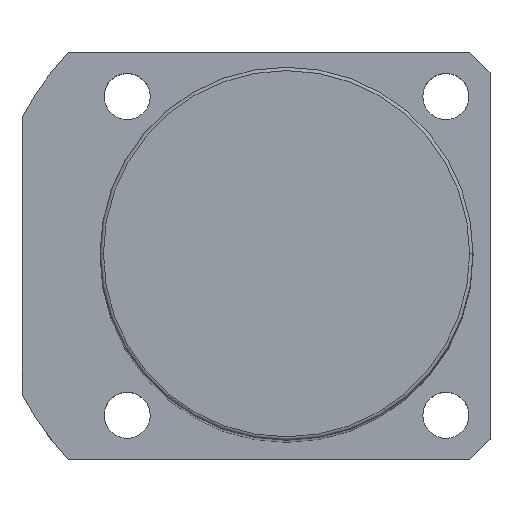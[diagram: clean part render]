
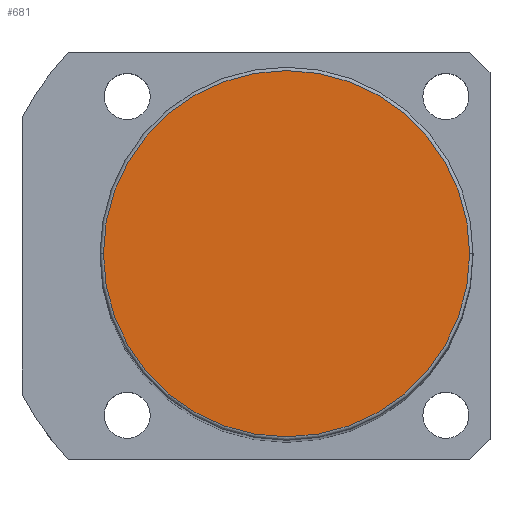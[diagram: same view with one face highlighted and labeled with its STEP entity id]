
A CAD part, top view. The second image highlights one B-rep face of the part: STEP entity #681.
In plain terms, the highlighted planar face has unit normal (0, 0, 1).
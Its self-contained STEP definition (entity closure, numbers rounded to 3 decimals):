
#454 = EDGE_LOOP ( 'NONE', ( #3073, #2141 ) ) ;
#595 = AXIS2_PLACEMENT_3D ( 'NONE', #1752, #4878, #942 ) ;
#681 = ADVANCED_FACE ( 'NONE', ( #1657 ), #4937, .T. ) ;
#942 = DIRECTION ( 'NONE',  ( 1., 0., 0. ) ) ;
#1093 = CIRCLE ( 'NONE', #3872, 27. ) ;
#1096 = EDGE_CURVE ( 'NONE', #2994, #4324, #3432, .T. ) ;
#1229 = CARTESIAN_POINT ( 'NONE',  ( 0., 0., 191. ) ) ;
#1520 = DIRECTION ( 'NONE',  ( 0., 0., 1. ) ) ;
#1646 = DIRECTION ( 'NONE',  ( 1., 0., 0. ) ) ;
#1657 = FACE_OUTER_BOUND ( 'NONE', #454, .T. ) ;
#1752 = CARTESIAN_POINT ( 'NONE',  ( 0., 0., 191. ) ) ;
#2141 = ORIENTED_EDGE ( 'NONE', *, *, #1096, .T. ) ;
#2403 = AXIS2_PLACEMENT_3D ( 'NONE', #2552, #1520, #2964 ) ;
#2552 = CARTESIAN_POINT ( 'NONE',  ( 0., 0., 191. ) ) ;
#2964 = DIRECTION ( 'NONE',  ( 1., 0., 0. ) ) ;
#2994 = VERTEX_POINT ( 'NONE', #3796 ) ;
#3073 = ORIENTED_EDGE ( 'NONE', *, *, #3257, .T. ) ;
#3257 = EDGE_CURVE ( 'NONE', #4324, #2994, #1093, .T. ) ;
#3432 = CIRCLE ( 'NONE', #595, 27. ) ;
#3796 = CARTESIAN_POINT ( 'NONE',  ( -27., 0., 191. ) ) ;
#3852 = CARTESIAN_POINT ( 'NONE',  ( 27., 0., 191. ) ) ;
#3872 = AXIS2_PLACEMENT_3D ( 'NONE', #1229, #3980, #1646 ) ;
#3980 = DIRECTION ( 'NONE',  ( 0., 0., 1. ) ) ;
#4324 = VERTEX_POINT ( 'NONE', #3852 ) ;
#4878 = DIRECTION ( 'NONE',  ( 0., 0., 1. ) ) ;
#4937 = PLANE ( 'NONE',  #2403 ) ;
